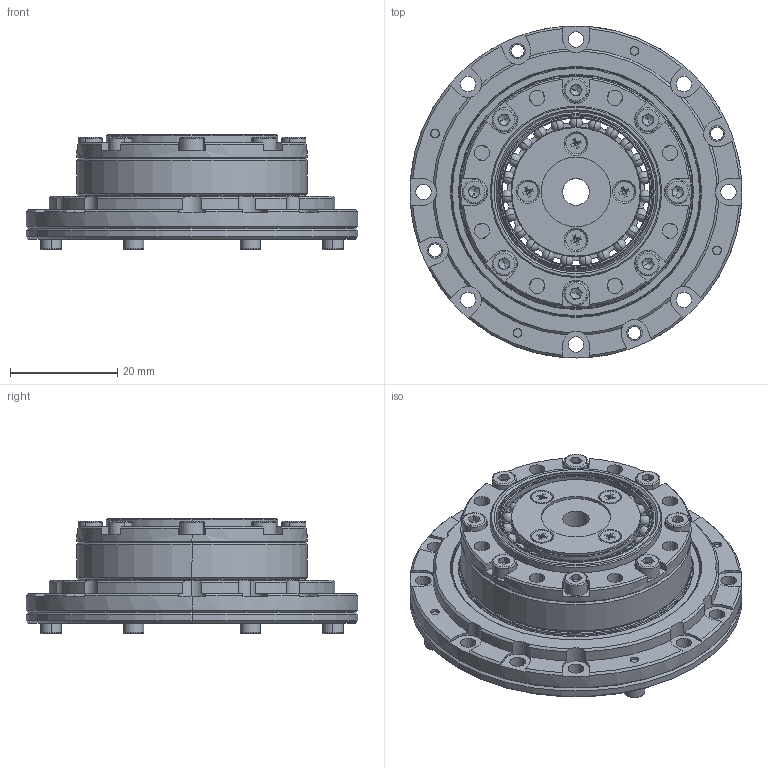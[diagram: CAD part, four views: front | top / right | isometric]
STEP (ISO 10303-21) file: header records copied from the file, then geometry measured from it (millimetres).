
FILE_DESCRIPTION (( 'STEP AP203' ), '1' );
FILE_NAME ('LHS-11-XXX-C-I-RWL.STEP', '2025-06-21T07:43:56', ( '' ), ( '' ), 'SwSTEP 2.0', 'SolidWorks 2013', '' );
FILE_SCHEMA (( 'CONFIG_CONTROL_DESIGN' ));
Length unit declared in the file: millimetre
Products named in the file (1): LHS-11-XXX-C-I-RWL
Bounding box: 62 x 62 x 21.6 mm (x, y, z)
Volume: 22062.9 mm3; surface area: 23617.2 mm2
Topology: 1 solids, 22 shells, 1171 faces, 3131 edges, 1945 vertices
Faces by surface type: plane 455, cylinder 364, cone 228, torus 78, sphere 46
Entity records: 37607 total; most frequent: CARTESIAN_POINT 8252, DIRECTION 6574, ORIENTED_EDGE 5968, EDGE_CURVE 2984, AXIS2_PLACEMENT_3D 2730, VERTEX_POINT 1876, CIRCLE 1558, EDGE_LOOP 1340
